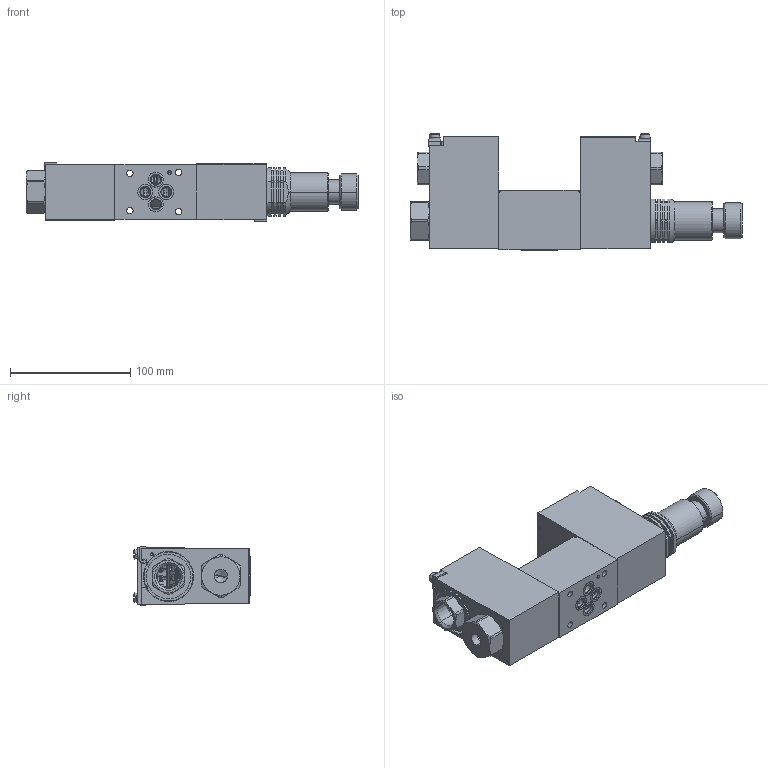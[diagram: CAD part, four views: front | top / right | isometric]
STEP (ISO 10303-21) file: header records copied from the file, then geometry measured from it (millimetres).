
FILE_DESCRIPTION((''),'2;1');
FILE_NAME('RPEX_NOVA_ASM_ASM','2023-10-03T',('l.soukupova'),(''),'PRO/ENGINEER BY PARAMETRIC TECHNOLOGY CORPORATION, 2015440','PRO/ENGINEER BY PARAMETRIC TECHNOLOGY CORPORATION, 2015440','');
FILE_SCHEMA(('AUTOMOTIVE_DESIGN { 1 0 10303 214 1 1 1 1 }'));
Products named in the file (24): NG6_B_22299401_1; PRT0002_1; PRT0003_1; PRT0004_1; PRT0005_1; PRT0006_1; PRT0007_1; PRT0008_1; PRT0009_1; ASM0003_ASM_1_ASM; ASM0002_ASM_1_ASM; PRT0010_1; PRT0011_1; PRT0012_1; ASM0005_ASM_1_ASM; ASM0004_ASM_1_ASM; PRT0013_1; PRT0014_1; ASM0007_ASM_1_ASM; ASM0006_ASM_1_ASM; 1000429094; 1000356215_1; RPEX_NOVA_ASM_1_ASM; RPEX_NOVA_ASM_ASM
Assembly tree (30 placements, depth 5):
  RPEX_NOVA_ASM_ASM
    RPEX_NOVA_ASM_1_ASM
      NG6_B_22299401_1
      ASM0002_ASM_1_ASM  x2
        ASM0003_ASM_1_ASM
          PRT0002_1
          PRT0003_1
          PRT0004_1
          PRT0005_1
          PRT0006_1
          PRT0007_1
          PRT0008_1
          PRT0009_1
      ASM0004_ASM_1_ASM  x3
        ASM0005_ASM_1_ASM
          PRT0010_1
          PRT0011_1
          PRT0012_1
      ASM0006_ASM_1_ASM  x2
        ASM0007_ASM_1_ASM
          PRT0013_1
          PRT0014_1
      1000429094  x4
      1000356215_1
Bounding box: 275.8 x 96.47 x 49.41 mm (x, y, z)
Volume: 586500.4 mm3; surface area: 161023.6 mm2
Topology: 35 solids, 40 shells, 1775 faces, 4979 edges, 3671 vertices
Faces by surface type: plane 760, cylinder 567, cone 180, torus 144, bspline 82, sphere 26, revolution 16
Entity records: 61579 total; most frequent: CARTESIAN_POINT 16468, DIRECTION 6713, ORIENTED_EDGE 6170, PRESENTATION_STYLE_ASSIGNMENT 3761, STYLED_ITEM 3345, CURVE_STYLE 3318, EDGE_CURVE 3095, AXIS2_PLACEMENT_3D 2561
